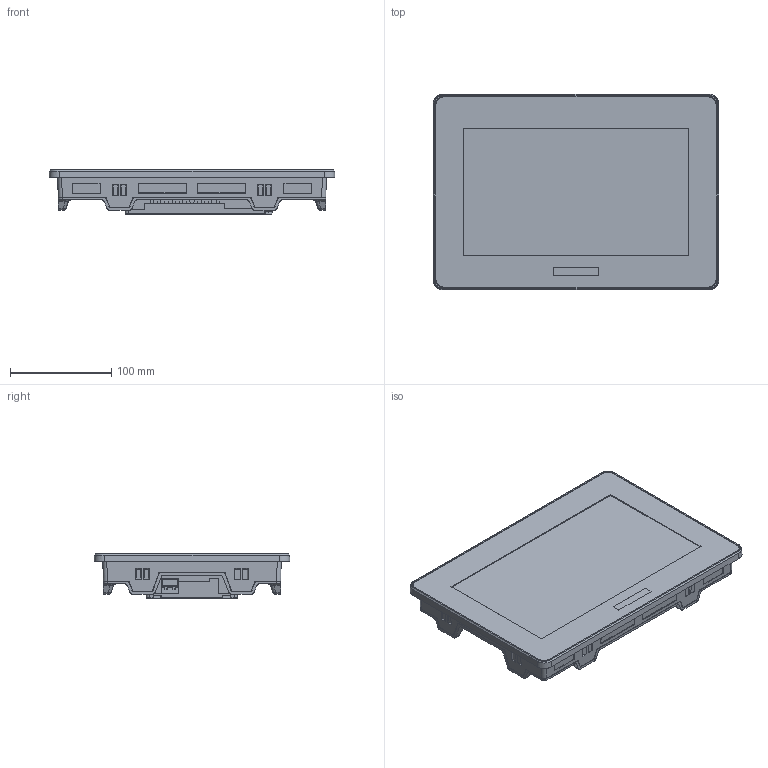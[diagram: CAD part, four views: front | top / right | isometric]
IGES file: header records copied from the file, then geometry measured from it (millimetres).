
Start section: SolidWorks IGES file using analytic representation for surfaces
Global section: file name: Z:\Products\UniStream\Unistream 10.1\Design\V00\CAD Files\USL-101-xx\USL-101-xx_3D\USL-101-xx_3D.IGS; native system: SolidWorks 2017; preprocessor: SolidWorks 2017; author: LaorB; date: 201103.100258; units: millimetre
Bounding box: 282.79 x 193.69 x 44.5 mm (x, y, z)
Surface area: 160756.1 mm2 (no closed solid volume)
Topology: 0 solids, 0 shells, 2990 faces, 24845 edges, 24808 vertices
Faces by surface type: bspline 2010, revolution 980
